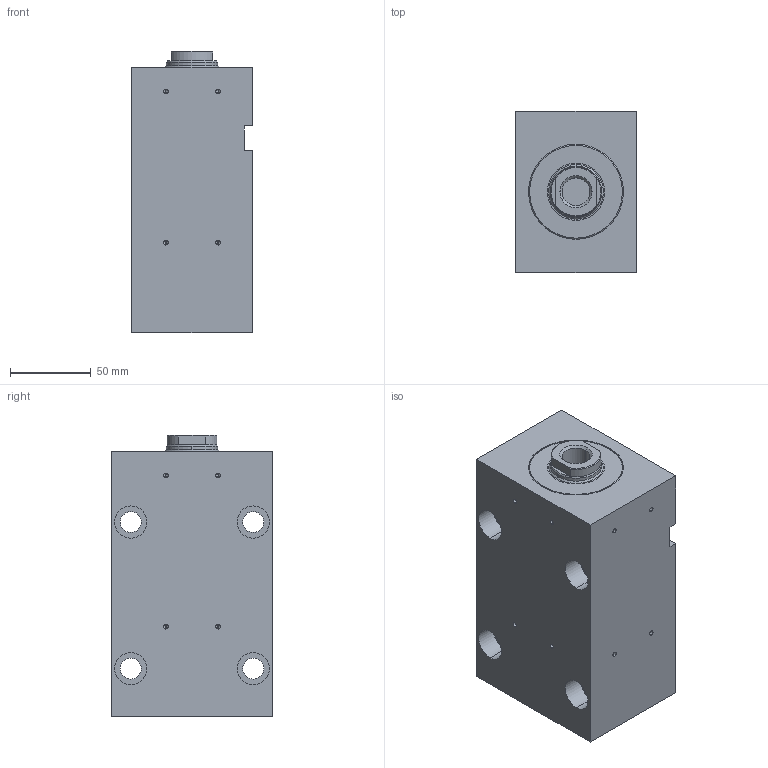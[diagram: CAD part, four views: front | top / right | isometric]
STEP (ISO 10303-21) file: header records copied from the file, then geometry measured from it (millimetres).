
FILE_DESCRIPTION (( 'STEP AP203' ), '1' );
FILE_NAME ('BZ_500.50_32.33.201.100 PP.NS44__DH_0_.STEP', '2022-05-30T09:10:46', ( '' ), ( '' ), 'SwSTEP 2.0', 'SolidWorks 2020', '' );
FILE_SCHEMA (( 'CONFIG_CONTROL_DESIGN' ));
Length unit declared in the file: millimetre
Products named in the file (7): _Gehaeuse f. BZ500.50_32.33.201.100.N1.m (m = Nut spiegelbildlich44)Nut rechts, Senkungen links00(144frei1330220))7^BZ_500.50_32.33.201.100 PP.NS44__DH_0_(2)_BZ_500.50_32.33.201.100 PP.NS44__D~; BZ_500.50_32.33.201.100 PP.NS44__DH_0_(2)^BZ_500.50_32.33.201.100 PP.NS44__DH_0_; BZ_500.50_32.33.201.100 PP.NS44__DH_0_; _Dichtungssatz f. BZ_RZ_FZ.50_32.xx.201.100 Artikelnr._ 013676(0)^BZ_500.50_32.33.201.100 PP.NS44__DH_0_(2)_BZ_500.50_32.33.201.100 PP.NS44__DH_0_; _Verschraubung komplett mit Dichtung f. BZ_RZ_FZ.50_32.201, Art.-Nr._ 042986(201)^BZ_500.50_32.33.201.100 PP.NS44__DH_0_(2)_BZ_500.50_32.33.201.100 PP.NS44__DH_0_; _O-Ring 9x2 - Art. 104351^BZ_500.50_32.33.201.100 PP.NS44__DH_0_(2)_BZ_500.50_32.33.201.100 PP.NS44__DH_0_; _Kolbenstange komplett f. BZ_RZ_FZ.50_32.xx.201.100, Art.-Nr._ 054516(0_11 1 20 2.5 0 0 10 30 0 0 0)0^BZ_500.50_32.33.201.100 PP.NS44__DH_0_(2)_BZ_500.50_32.33.201.100 PP.NS44__DH_0_
Assembly tree (7 placements, depth 3):
  BZ_500.50_32.33.201.100 PP.NS44__DH_0_
    BZ_500.50_32.33.201.100 PP.NS44__DH_0_(2)^BZ_500.50_32.33.201.100 PP.NS44__DH_0_
      _Gehaeuse f. BZ500.50_32.33.201.100.N1.m (m = Nut spiegelbildlich44)Nut rechts, Senkungen links00(144frei1330220))7^BZ_500.50_32.33.201.100 PP.NS44__DH_0_(2)_BZ_500.50_32.33.201.100 PP.NS44__D~
      _Verschraubung komplett mit Dichtung f. BZ_RZ_FZ.50_32.201, Art.-Nr._ 042986(201)^BZ_500.50_32.33.201.100 PP.NS44__DH_0_(2)_BZ_500.50_32.33.201.100 PP.NS44__DH_0_
      _Dichtungssatz f. BZ_RZ_FZ.50_32.xx.201.100 Artikelnr._ 013676(0)^BZ_500.50_32.33.201.100 PP.NS44__DH_0_(2)_BZ_500.50_32.33.201.100 PP.NS44__DH_0_
      _Kolbenstange komplett f. BZ_RZ_FZ.50_32.xx.201.100, Art.-Nr._ 054516(0_11 1 20 2.5 0 0 10 30 0 0 0)0^BZ_500.50_32.33.201.100 PP.NS44__DH_0_(2)_BZ_500.50_32.33.201.100 PP.NS44__DH_0_
      _O-Ring 9x2 - Art. 104351^BZ_500.50_32.33.201.100 PP.NS44__DH_0_(2)_BZ_500.50_32.33.201.100 PP.NS44__DH_0_  x2
Bounding box: 75 x 100 x 175 mm (x, y, z)
Volume: 1063381.3 mm3; surface area: 150533.9 mm2
Topology: 6 solids, 6 shells, 164 faces, 378 edges, 226 vertices
Faces by surface type: cylinder 78, plane 40, cone 34, torus 12
Entity records: 5182 total; most frequent: DIRECTION 845, CARTESIAN_POINT 809, ORIENTED_EDGE 676, AXIS2_PLACEMENT_3D 350, EDGE_CURVE 338, VERTEX_POINT 216, EDGE_LOOP 198, CIRCLE 183
